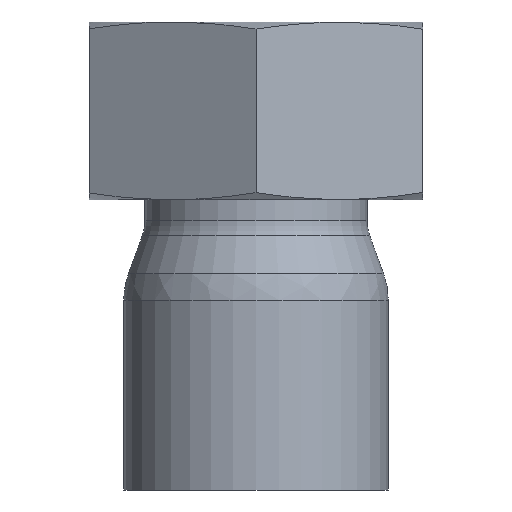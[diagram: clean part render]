
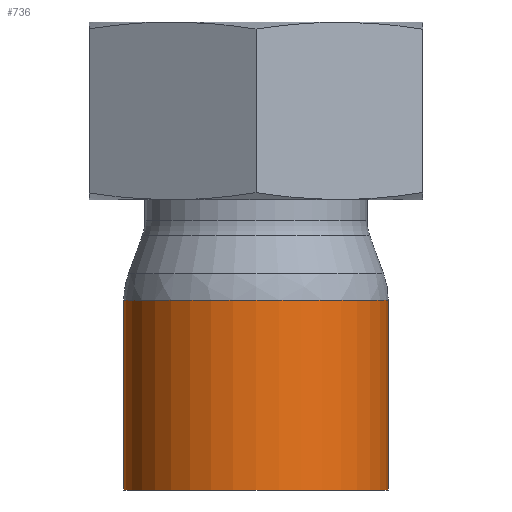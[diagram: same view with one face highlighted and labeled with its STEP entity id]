
A CAD part, front view. The second image highlights one B-rep face of the part: STEP entity #736.
In plain terms, the highlighted cylindrical face has radius 11.9 mm (diameter 23.8 mm), a full revolution.
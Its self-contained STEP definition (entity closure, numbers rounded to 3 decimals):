
#87=CYLINDRICAL_SURFACE('',#898,11.9);
#102=FACE_OUTER_BOUND('',#145,.T.);
#145=EDGE_LOOP('',(#551,#552,#553,#554,#555,#556,#557));
#192=LINE('',#1307,#218);
#218=VECTOR('',#1067,11.9);
#244=CIRCLE('',#868,11.9);
#245=CIRCLE('',#869,11.9);
#268=CIRCLE('',#899,11.9);
#269=CIRCLE('',#900,11.9);
#270=CIRCLE('',#901,11.9);
#311=VERTEX_POINT('',#1244);
#312=VERTEX_POINT('',#1245);
#333=VERTEX_POINT('',#1301);
#334=VERTEX_POINT('',#1302);
#335=VERTEX_POINT('',#1304);
#391=EDGE_CURVE('',#311,#312,#244,.T.);
#392=EDGE_CURVE('',#312,#311,#245,.T.);
#419=EDGE_CURVE('',#333,#334,#268,.T.);
#420=EDGE_CURVE('',#335,#333,#269,.T.);
#421=EDGE_CURVE('',#334,#335,#270,.T.);
#422=EDGE_CURVE('',#334,#312,#192,.T.);
#551=ORIENTED_EDGE('',*,*,#419,.F.);
#552=ORIENTED_EDGE('',*,*,#420,.F.);
#553=ORIENTED_EDGE('',*,*,#421,.F.);
#554=ORIENTED_EDGE('',*,*,#422,.T.);
#555=ORIENTED_EDGE('',*,*,#392,.T.);
#556=ORIENTED_EDGE('',*,*,#391,.T.);
#557=ORIENTED_EDGE('',*,*,#422,.F.);
#736=ADVANCED_FACE('',(#102),#87,.T.);
#868=AXIS2_PLACEMENT_3D('',#1246,#995,#996);
#869=AXIS2_PLACEMENT_3D('',#1247,#997,#998);
#898=AXIS2_PLACEMENT_3D('',#1300,#1059,#1060);
#899=AXIS2_PLACEMENT_3D('',#1303,#1061,#1062);
#900=AXIS2_PLACEMENT_3D('',#1305,#1063,#1064);
#901=AXIS2_PLACEMENT_3D('',#1306,#1065,#1066);
#995=DIRECTION('center_axis',(0.,0.,1.));
#996=DIRECTION('ref_axis',(1.,0.,0.));
#997=DIRECTION('center_axis',(0.,0.,1.));
#998=DIRECTION('ref_axis',(1.,0.,0.));
#1059=DIRECTION('center_axis',(0.,0.,1.));
#1060=DIRECTION('ref_axis',(0.,-1.,0.));
#1061=DIRECTION('center_axis',(0.,0.,1.));
#1062=DIRECTION('ref_axis',(1.,0.,0.));
#1063=DIRECTION('center_axis',(0.,0.,1.));
#1064=DIRECTION('ref_axis',(1.,0.,0.));
#1065=DIRECTION('center_axis',(0.,0.,1.));
#1066=DIRECTION('ref_axis',(1.,0.,0.));
#1067=DIRECTION('',(0.,0.,-1.));
#1244=CARTESIAN_POINT('',(0.,-11.9,-29.629));
#1245=CARTESIAN_POINT('',(0.,11.9,-29.629));
#1246=CARTESIAN_POINT('Origin',(0.,0.,-29.629));
#1247=CARTESIAN_POINT('Origin',(0.,0.,-29.629));
#1300=CARTESIAN_POINT('Origin',(0.,0.,-21.079));
#1301=CARTESIAN_POINT('',(0.,-11.9,-12.529));
#1302=CARTESIAN_POINT('',(0.,11.9,-12.529));
#1303=CARTESIAN_POINT('Origin',(0.,0.,-12.529));
#1304=CARTESIAN_POINT('',(-11.9,0.,-12.529));
#1305=CARTESIAN_POINT('Origin',(0.,0.,-12.529));
#1306=CARTESIAN_POINT('Origin',(0.,0.,-12.529));
#1307=CARTESIAN_POINT('',(0.,11.9,-21.079));
